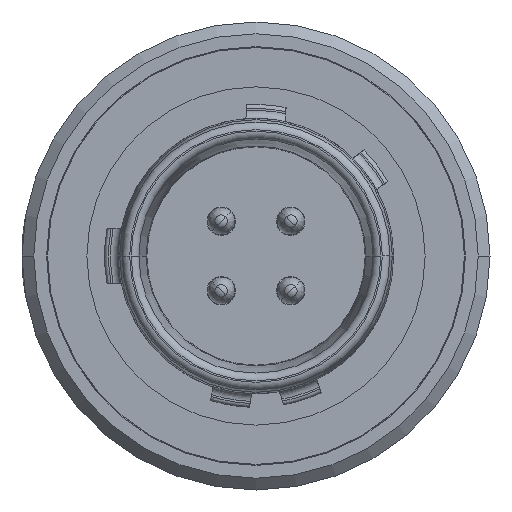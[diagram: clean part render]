
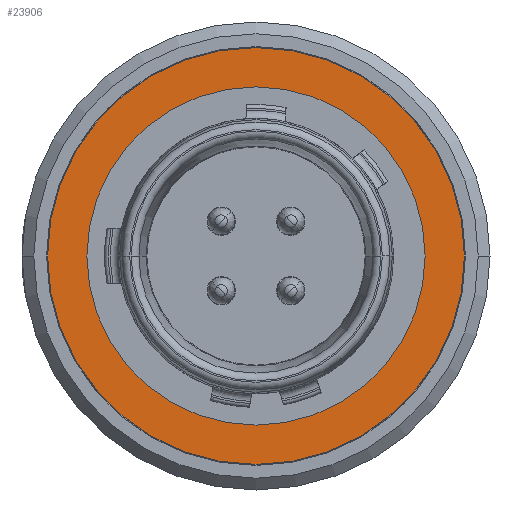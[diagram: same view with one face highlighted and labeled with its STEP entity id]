
A CAD part, left-side view. The second image highlights one B-rep face of the part: STEP entity #23906.
In plain terms, the highlighted planar face has unit normal (-1, 0, 0).
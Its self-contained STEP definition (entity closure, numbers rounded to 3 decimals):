
#9727=CARTESIAN_POINT('',(-7.501,0.,0.));
#9728=DIRECTION('',(-1.,0.,0.));
#9729=DIRECTION('',(0.,-1.,0.));
#9730=AXIS2_PLACEMENT_3D('',#9727,#9728,#9729);
#9846=CARTESIAN_POINT('',(-7.501,0.,0.));
#9847=DIRECTION('',(1.,0.,0.));
#9848=DIRECTION('',(0.,-1.,0.));
#9849=AXIS2_PLACEMENT_3D('',#9846,#9847,#9848);
#9851=CARTESIAN_POINT('',(-7.501,0.,0.));
#9852=DIRECTION('',(1.,0.,0.));
#9853=DIRECTION('',(0.,-1.,0.));
#9854=AXIS2_PLACEMENT_3D('',#9851,#9852,#9853);
#9856=CARTESIAN_POINT('',(-7.501,0.,0.));
#9857=DIRECTION('',(-1.,0.,0.));
#9858=DIRECTION('',(0.,-1.,0.));
#9859=AXIS2_PLACEMENT_3D('',#9856,#9857,#9858);
#13599=CARTESIAN_POINT('',(-7.501,-4.3,0.));
#13600=CARTESIAN_POINT('',(-7.501,4.3,0.));
#13601=VERTEX_POINT('',#13599);
#13602=VERTEX_POINT('',#13600);
#13603=CARTESIAN_POINT('',(-7.501,-5.3,0.));
#13604=CARTESIAN_POINT('',(-7.501,5.3,0.));
#13605=VERTEX_POINT('',#13603);
#13606=VERTEX_POINT('',#13604);
#23891=CARTESIAN_POINT('',(-7.501,0.,0.));
#23892=DIRECTION('',(1.,0.,0.));
#23893=DIRECTION('',(0.,-1.,0.));
#23894=AXIS2_PLACEMENT_3D('',#23891,#23892,#23893);
#23895=PLANE('',#23894);
#23896=ORIENTED_EDGE('',*,*,#23857,.F.);
#23897=ORIENTED_EDGE('',*,*,#23878,.T.);
#23898=EDGE_LOOP('',(#23896,#23897));
#23899=FACE_OUTER_BOUND('',#23898,.F.);
#23901=ORIENTED_EDGE('',*,*,#23900,.F.);
#23903=ORIENTED_EDGE('',*,*,#23902,.T.);
#23904=EDGE_LOOP('',(#23901,#23903));
#23905=FACE_BOUND('',#23904,.F.);
#9731=CIRCLE('',#9730,5.3);
#9850=CIRCLE('',#9849,5.3);
#9855=CIRCLE('',#9854,4.3);
#9860=CIRCLE('',#9859,4.3);
#23857=EDGE_CURVE('',#13605,#13606,#9731,.T.);
#23878=EDGE_CURVE('',#13605,#13606,#9850,.T.);
#23900=EDGE_CURVE('',#13601,#13602,#9855,.T.);
#23902=EDGE_CURVE('',#13601,#13602,#9860,.T.);
#23906=ADVANCED_FACE('',(#23899,#23905),#23895,.F.);
